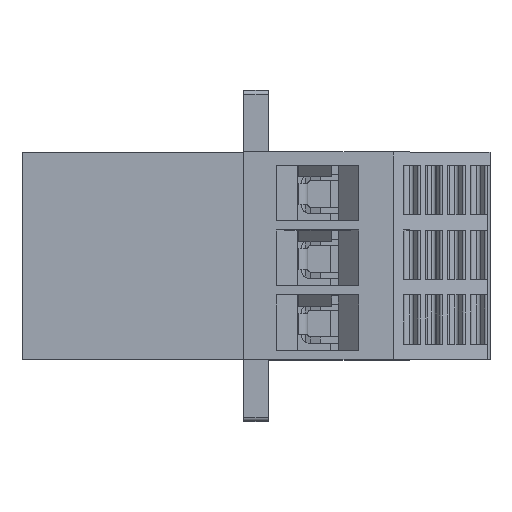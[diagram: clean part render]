
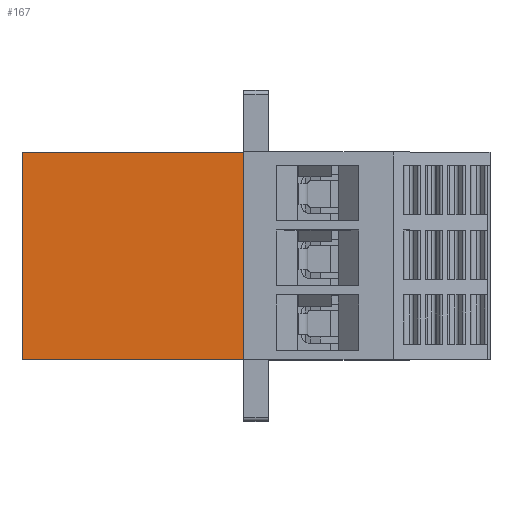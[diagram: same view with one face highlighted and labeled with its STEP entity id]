
A CAD part, top view. The second image highlights one B-rep face of the part: STEP entity #167.
In plain terms, the highlighted planar face has unit normal (0, 0, 1).
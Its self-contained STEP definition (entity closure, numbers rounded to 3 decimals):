
#167=ADVANCED_FACE('',(#44246),#44248,.T.);
#44246=FACE_BOUND('',#44247,.T.);
#44247=EDGE_LOOP('',(#79095,#79096,#79097,#79098));
#44248=PLANE('',#44249);
#44249=AXIS2_PLACEMENT_3D('',#44250,#44251,#44252);
#44250=CARTESIAN_POINT('',(0.,-15.8,9.35));
#44251=DIRECTION('',(0.,0.,1.));
#44252=DIRECTION('',(1.,0.,0.));
#79095=ORIENTED_EDGE('',*,*,#107235,.T.);
#79096=ORIENTED_EDGE('',*,*,#107234,.T.);
#79097=ORIENTED_EDGE('',*,*,#107236,.F.);
#79098=ORIENTED_EDGE('',*,*,#107237,.F.);
#107234=EDGE_CURVE('',#121411,#121413,#121415,.T.);
#107235=EDGE_CURVE('',#121416,#121411,#121417,.T.);
#107236=EDGE_CURVE('',#121418,#121413,#121419,.T.);
#107237=EDGE_CURVE('',#121416,#121418,#121420,.T.);
#121411=VERTEX_POINT('',#145059);
#121413=VERTEX_POINT('',#145063);
#121415=LINE('',#145067,#145068);
#121416=VERTEX_POINT('',#145070);
#121417=LINE('',#145071,#145072);
#121418=VERTEX_POINT('',#145074);
#121419=LINE('',#145075,#145076);
#121420=LINE('',#145078,#145079);
#145059=CARTESIAN_POINT('',(27.,-15.8,9.35));
#145063=CARTESIAN_POINT('',(27.,9.5,9.35));
#145067=CARTESIAN_POINT('',(27.,-15.8,9.35));
#145068=VECTOR('',#145069,1.);
#145069=DIRECTION('',(0.,1.,0.));
#145070=CARTESIAN_POINT('',(0.,-15.8,9.35));
#145071=CARTESIAN_POINT('',(0.,-15.8,9.35));
#145072=VECTOR('',#145073,1.);
#145073=DIRECTION('',(1.,0.,0.));
#145074=CARTESIAN_POINT('',(0.,9.5,9.35));
#145075=CARTESIAN_POINT('',(0.,9.5,9.35));
#145076=VECTOR('',#145077,1.);
#145077=DIRECTION('',(1.,0.,0.));
#145078=CARTESIAN_POINT('',(0.,-15.8,9.35));
#145079=VECTOR('',#145080,1.);
#145080=DIRECTION('',(0.,1.,0.));
